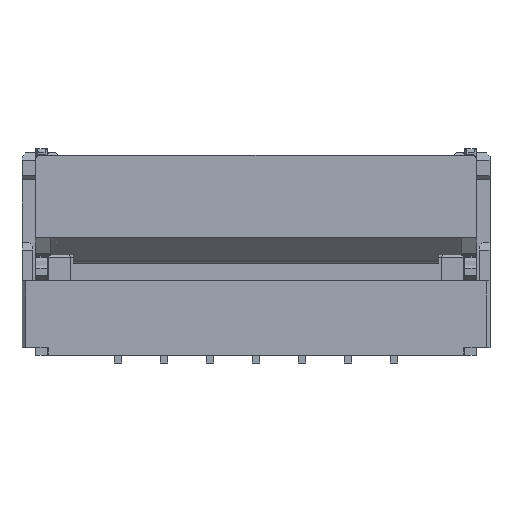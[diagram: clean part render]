
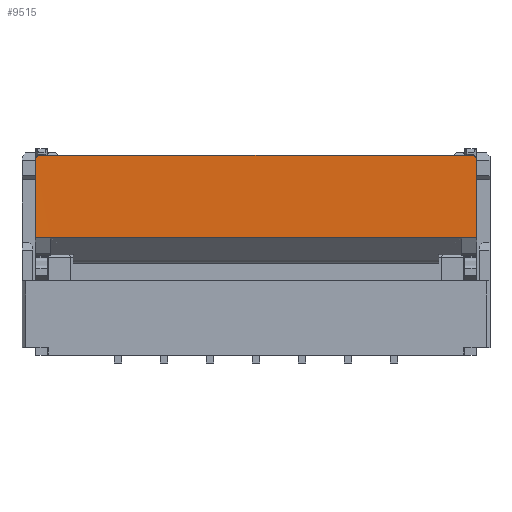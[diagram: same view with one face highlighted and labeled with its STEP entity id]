
A CAD part, top view. The second image highlights one B-rep face of the part: STEP entity #9515.
In plain terms, the highlighted planar face has unit normal (0, 0, 1).
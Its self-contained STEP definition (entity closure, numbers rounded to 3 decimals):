
#277 = LINE ( 'NONE', #4729, #8559 ) ;
#341 = EDGE_LOOP ( 'NONE', ( #4089, #11605, #11711, #972, #12923, #5933, #4764, #6049 ) ) ;
#586 = EDGE_CURVE ( 'NONE', #6639, #13942, #9047, .T. ) ;
#671 = CARTESIAN_POINT ( 'NONE',  ( 0.02, 1.53, 0.909 ) ) ;
#951 = EDGE_CURVE ( 'NONE', #12760, #10255, #10920, .T. ) ;
#972 = ORIENTED_EDGE ( 'NONE', *, *, #14008, .F. ) ;
#1255 = FACE_OUTER_BOUND ( 'NONE', #341, .T. ) ;
#1340 = CARTESIAN_POINT ( 'NONE',  ( 5.58, 1.53, 0.91 ) ) ;
#1364 = VECTOR ( 'NONE', #3888, 1000. ) ;
#1891 = VERTEX_POINT ( 'NONE', #10723 ) ;
#2207 = CARTESIAN_POINT ( 'NONE',  ( -0.18, 2.045, 0.91 ) ) ;
#2503 = CARTESIAN_POINT ( 'NONE',  ( 5.53, 2.61, 0.91 ) ) ;
#2771 = B_SPLINE_CURVE_WITH_KNOTS ( 'NONE', 3,
 ( #12216, #11341, #9118, #1340 ),
 .UNSPECIFIED., .F., .F.,
 ( 4, 4 ),
 ( 0., 1. ),
 .UNSPECIFIED. ) ;
#2907 = EDGE_CURVE ( 'NONE', #1891, #4588, #13765, .T. ) ;
#3046 = CARTESIAN_POINT ( 'NONE',  ( 5.58, 2.045, 0.91 ) ) ;
#3797 = VERTEX_POINT ( 'NONE', #4118 ) ;
#3888 = DIRECTION ( 'NONE',  ( 1., 0., 0. ) ) ;
#3908 = CARTESIAN_POINT ( 'NONE',  ( -0.18, 2.56, 0.91 ) ) ;
#4084 = CARTESIAN_POINT ( 'NONE',  ( -0.18, 1.53, 0.91 ) ) ;
#4089 = ORIENTED_EDGE ( 'NONE', *, *, #4916, .F. ) ;
#4118 = CARTESIAN_POINT ( 'NONE',  ( 5.38, 1.53, 0.909 ) ) ;
#4213 = LINE ( 'NONE', #2207, #9973 ) ;
#4339 = CARTESIAN_POINT ( 'NONE',  ( 5.555, 2.585, 0.91 ) ) ;
#4588 = VERTEX_POINT ( 'NONE', #2503 ) ;
#4729 = CARTESIAN_POINT ( 'NONE',  ( 5.11, 1.53, 0.91 ) ) ;
#4764 = ORIENTED_EDGE ( 'NONE', *, *, #6449, .T. ) ;
#4916 = EDGE_CURVE ( 'NONE', #3797, #6639, #277, .T. ) ;
#5115 = CARTESIAN_POINT ( 'NONE',  ( 5.58, 2.56, 0.91 ) ) ;
#5169 = CARTESIAN_POINT ( 'NONE',  ( 0.02, 1.53, 0.909 ) ) ;
#5933 = ORIENTED_EDGE ( 'NONE', *, *, #7824, .T. ) ;
#5977 = CARTESIAN_POINT ( 'NONE',  ( 0., 2.61, 0.91 ) ) ;
#6049 = ORIENTED_EDGE ( 'NONE', *, *, #586, .F. ) ;
#6449 = EDGE_CURVE ( 'NONE', #13449, #13942, #4213, .T. ) ;
#6513 = VECTOR ( 'NONE', #11246, 1000. ) ;
#6639 = VERTEX_POINT ( 'NONE', #671 ) ;
#6644 = VECTOR ( 'NONE', #13222, 1000. ) ;
#6810 = LINE ( 'NONE', #9111, #8624 ) ;
#6831 = CARTESIAN_POINT ( 'NONE',  ( 5.58, 1.53, 0.91 ) ) ;
#7138 = DIRECTION ( 'NONE',  ( 1., 0., 0. ) ) ;
#7824 = EDGE_CURVE ( 'NONE', #1891, #13449, #6810, .T. ) ;
#8390 = AXIS2_PLACEMENT_3D ( 'NONE', #5977, #9224, #7138 ) ;
#8559 = VECTOR ( 'NONE', #11161, 1000. ) ;
#8624 = VECTOR ( 'NONE', #13565, 1000. ) ;
#9047 = B_SPLINE_CURVE_WITH_KNOTS ( 'NONE', 3,
 ( #5169, #9566, #13959, #4084 ),
 .UNSPECIFIED., .F., .F.,
 ( 4, 4 ),
 ( 0., 1. ),
 .UNSPECIFIED. ) ;
#9111 = CARTESIAN_POINT ( 'NONE',  ( -0.155, 2.585, 0.91 ) ) ;
#9118 = CARTESIAN_POINT ( 'NONE',  ( 5.513, 1.53, 0.91 ) ) ;
#9224 = DIRECTION ( 'NONE',  ( 0., 0., 1. ) ) ;
#9515 = ADVANCED_FACE ( 'NONE', ( #1255 ), #12266, .T. ) ;
#9524 = CARTESIAN_POINT ( 'NONE',  ( 3.3, 2.61, 0.91 ) ) ;
#9566 = CARTESIAN_POINT ( 'NONE',  ( -0.047, 1.53, 0.909 ) ) ;
#9973 = VECTOR ( 'NONE', #13006, 1000. ) ;
#10255 = VERTEX_POINT ( 'NONE', #6831 ) ;
#10723 = CARTESIAN_POINT ( 'NONE',  ( -0.13, 2.61, 0.91 ) ) ;
#10920 = LINE ( 'NONE', #3046, #6644 ) ;
#11161 = DIRECTION ( 'NONE',  ( -1., 0., 0. ) ) ;
#11246 = DIRECTION ( 'NONE',  ( 0.707, -0.707, 0. ) ) ;
#11341 = CARTESIAN_POINT ( 'NONE',  ( 5.447, 1.53, 0.91 ) ) ;
#11605 = ORIENTED_EDGE ( 'NONE', *, *, #13291, .T. ) ;
#11711 = ORIENTED_EDGE ( 'NONE', *, *, #951, .F. ) ;
#11751 = CARTESIAN_POINT ( 'NONE',  ( -0.18, 1.53, 0.91 ) ) ;
#12216 = CARTESIAN_POINT ( 'NONE',  ( 5.38, 1.53, 0.909 ) ) ;
#12266 = PLANE ( 'NONE',  #8390 ) ;
#12760 = VERTEX_POINT ( 'NONE', #5115 ) ;
#12923 = ORIENTED_EDGE ( 'NONE', *, *, #2907, .F. ) ;
#13006 = DIRECTION ( 'NONE',  ( 0., -1., 0. ) ) ;
#13222 = DIRECTION ( 'NONE',  ( 0., -1., 0. ) ) ;
#13291 = EDGE_CURVE ( 'NONE', #3797, #10255, #2771, .T. ) ;
#13449 = VERTEX_POINT ( 'NONE', #3908 ) ;
#13565 = DIRECTION ( 'NONE',  ( -0.707, -0.707, 0. ) ) ;
#13765 = LINE ( 'NONE', #9524, #1364 ) ;
#13942 = VERTEX_POINT ( 'NONE', #11751 ) ;
#13959 = CARTESIAN_POINT ( 'NONE',  ( -0.113, 1.53, 0.909 ) ) ;
#14008 = EDGE_CURVE ( 'NONE', #4588, #12760, #14200, .T. ) ;
#14200 = LINE ( 'NONE', #4339, #6513 ) ;
